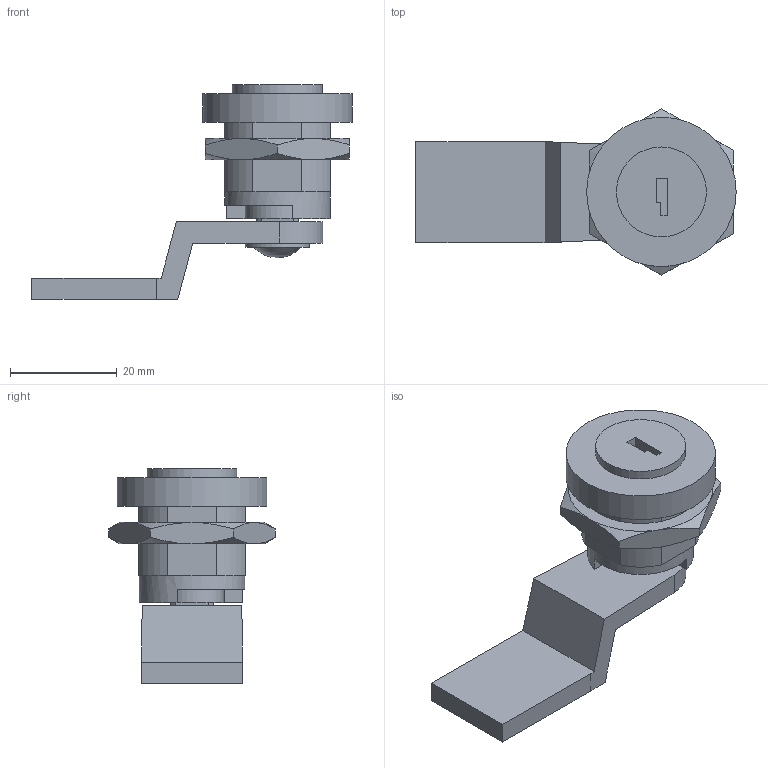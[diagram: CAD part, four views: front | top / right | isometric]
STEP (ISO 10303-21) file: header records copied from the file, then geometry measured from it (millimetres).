
FILE_DESCRIPTION( ( 'STEP AP214' ), '1' );
FILE_NAME( 'p:/temp/worker_117/temp/exporttempdir_4040_133_wsW0u/format_0/ALL509(0).stp', '2021-03-15T13:07:24', ( 'License CC BY-ND 4.0' ), ( 'CADENAS' ), ' ', 'PARTsolutions', ' ' );
FILE_SCHEMA( ( 'AUTOMOTIVE_DESIGN { 1 0 10303 214 1 1 1 1 }' ) );
Length unit declared in the file: millimetre
Products named in the file (1): _ALL509(0)
Bounding box: 60 x 31.18 x 40.26 mm (x, y, z)
Volume: 15167.6 mm3; surface area: 6749 mm2
Topology: 1 solids, 1 shells, 86 faces, 213 edges, 138 vertices
Faces by surface type: plane 47, cone 20, cylinder 18, sphere 1
Full cylindrical faces by diameter (mm): 12 x1, 16.85 x1, 19.8 x1, 28 x1
Entity records: 3388 total; most frequent: CARTESIAN_POINT 678, ORIENTED_EDGE 412, DIRECTION 406, EDGE_CURVE 206, AXIS2_PLACEMENT_3D 145, VERTEX_POINT 137, LINE 116, VECTOR 116
